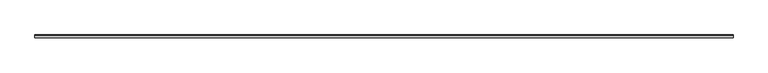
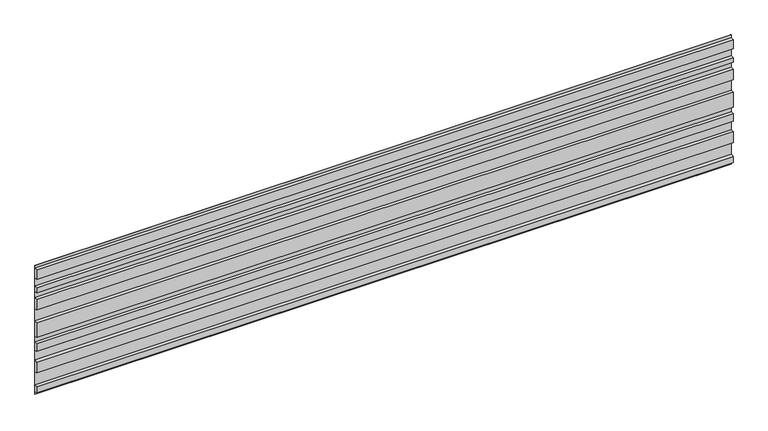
"""IFC4 building model written with IfcOpenShell, lengths in millimetres: plate geometry, ATELIERS 3S_NEW YORK QUEENS 980_HORIZONTAL : AZURO."""

from ifc_helpers import new_model, si_unit, frame, origin, place, context, project, spatial, polyline, outline, extrude, source, transform, mapped, element, save


def plate_791323b8(model_context):
    return source(origin(), model_context, "Body", "SweptSolid", [
        extrude(outline(polyline([(-20.75, 23.2118773), (-20.75, 69.341202), (-0.75, 72.8677416), (-0.75, 172.2384169), (-20.75, 175.7649565), (-20.75, 256.3942812), (-0.75, 259.9208208), (-0.75, 334.2914961), (-20.75, 337.8180357), (-20.75, 393.4473604), (-0.75, 396.9739), (-0.75, 441.3445753), (-20.75, 444.8711149), (-20.75, 555.5004397), (-0.75, 559.0269793), (-0.75, 648.3976546), (-20.75, 651.9241942), (-20.75, 732.5535189), (-0.75, 736.0800585), (-0.75, 780.4507338), (-20.75, 783.9772734), (-20.75, 819.6065981), (-0.75, 823.1331377), (-0.75, 882.503813), (-20.75, 886.0303526), (-20.75, 956.6596773), (-0.8, 960.1774006), (-0.8, 979.8715546), (0.0, 979.8715546), (0.0, 0.0), (-0.8, 0.0), (-0.8, 19.694154), (-20.75, 23.2118773)])), frame((-2500.0, 0.0, 0.0), z_axis=(1.0, 0.0, 0.0), x_axis=(0.0, 1.0, 0.0)), (0.0, 0.0, 1.0), 5000.0),
    ])


if __name__ == "__main__":
    model = new_model("IFC4")
    model_context = context("Model", 3, world=origin())
    ifc_project = project(units=[si_unit("LENGTHUNIT", "METRE", prefix="MILLI")], contexts=[model_context])
    site = spatial("IfcSite", under=ifc_project)
    building = spatial("IfcBuilding", under=site)
    placement = place(None, origin())
    plate_shape = plate_791323b8(model_context)
    element("IfcPlate", 1, ObjectType="ATELIERS 3S_NEW YORK QUEENS 980_HORIZONTAL : AZURO", at=placement, inside=building, context=model_context, shape_type="MappedRepresentation", body=[
        mapped(plate_shape, transform((0.0, 0.0, 0.0), x_axis=(1.0, 0.0, 0.0), y_axis=(0.0, 1.0, 0.0), z_axis=(0.0, 0.0, 1.0))),
    ])
    save(model, "model.ifc")
